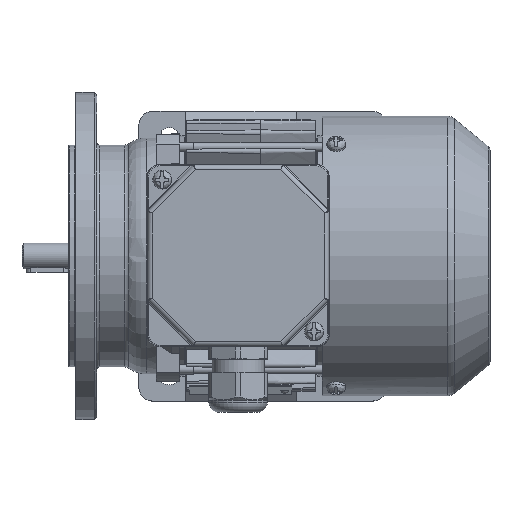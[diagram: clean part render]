
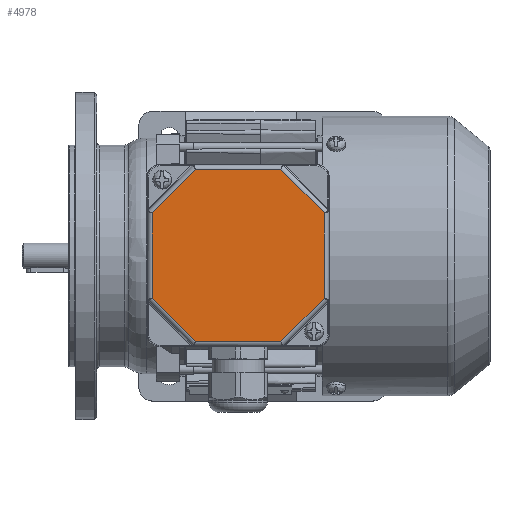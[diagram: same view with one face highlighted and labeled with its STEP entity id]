
A CAD part, top view. The second image highlights one B-rep face of the part: STEP entity #4978.
In plain terms, the highlighted planar face has unit normal (0, 0, 1).
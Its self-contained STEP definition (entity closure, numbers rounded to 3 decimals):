
#4978 = ADVANCED_FACE( '', ( #10157 ), #10158, .T. );
#10157 = FACE_OUTER_BOUND( '', #22165, .T. );
#10158 = PLANE( '', #22166 );
#22165 = EDGE_LOOP( '', ( #37793, #37794, #37795, #37796, #37797, #37798, #37799, #37800 ) );
#22166 = AXIS2_PLACEMENT_3D( '', #37801, #37802, #37803 );
#37793 = ORIENTED_EDGE( '', *, *, #46606, .T. );
#37794 = ORIENTED_EDGE( '', *, *, #47061, .T. );
#37795 = ORIENTED_EDGE( '', *, *, #44706, .T. );
#37796 = ORIENTED_EDGE( '', *, *, #42994, .T. );
#37797 = ORIENTED_EDGE( '', *, *, #45588, .T. );
#37798 = ORIENTED_EDGE( '', *, *, #45068, .T. );
#37799 = ORIENTED_EDGE( '', *, *, #45857, .T. );
#37800 = ORIENTED_EDGE( '', *, *, #46737, .T. );
#37801 = CARTESIAN_POINT( '', ( -39., 39., 12. ) );
#37802 = DIRECTION( '', ( 0., 0., 1. ) );
#37803 = DIRECTION( '', ( 1., 0., 0. ) );
#42994 = EDGE_CURVE( '', #51275, #51276, #51277, .T. );
#44706 = EDGE_CURVE( '', #54021, #51275, #54022, .F. );
#45068 = EDGE_CURVE( '', #54538, #49909, #54539, .T. );
#45588 = EDGE_CURVE( '', #51276, #54538, #55302, .F. );
#45857 = EDGE_CURVE( '', #49909, #55634, #55635, .F. );
#46606 = EDGE_CURVE( '', #55383, #56599, #56601, .F. );
#46737 = EDGE_CURVE( '', #55634, #55383, #56759, .T. );
#47061 = EDGE_CURVE( '', #56599, #54021, #57118, .T. );
#49909 = VERTEX_POINT( '', #60717 );
#51275 = VERTEX_POINT( '', #63500 );
#51276 = VERTEX_POINT( '', #63501 );
#51277 = LINE( '', #63502, #63503 );
#54021 = VERTEX_POINT( '', #69154 );
#54022 = LINE( '', #69155, #69156 );
#54538 = VERTEX_POINT( '', #70771 );
#54539 = LINE( '', #70772, #70773 );
#55302 = LINE( '', #72094, #72095 );
#55383 = VERTEX_POINT( '', #72298 );
#55634 = VERTEX_POINT( '', #72767 );
#55635 = LINE( '', #72768, #72769 );
#56599 = VERTEX_POINT( '', #74782 );
#56601 = LINE( '', #74784, #74785 );
#56759 = LINE( '', #75123, #75124 );
#57118 = LINE( '', #75676, #75677 );
#60717 = CARTESIAN_POINT( '', ( -18.255, -36.825, 12. ) );
#63500 = CARTESIAN_POINT( '', ( -18.255, 36.825, 12. ) );
#63501 = CARTESIAN_POINT( '', ( -36.825, 18.255, 12. ) );
#63502 = CARTESIAN_POINT( '', ( -37.401, 17.679, 12. ) );
#63503 = VECTOR( '', #78862, 1000. );
#69154 = CARTESIAN_POINT( '', ( 18.255, 36.825, 12. ) );
#69155 = CARTESIAN_POINT( '', ( -19.069, 36.825, 12. ) );
#69156 = VECTOR( '', #81106, 1000. );
#70771 = CARTESIAN_POINT( '', ( -36.825, -18.255, 12. ) );
#70772 = CARTESIAN_POINT( '', ( -17.679, -37.401, 12. ) );
#70773 = VECTOR( '', #81467, 1000. );
#72094 = CARTESIAN_POINT( '', ( -36.825, -19.069, 12. ) );
#72095 = VECTOR( '', #82236, 1000. );
#72298 = CARTESIAN_POINT( '', ( 36.825, -18.255, 12. ) );
#72767 = CARTESIAN_POINT( '', ( 18.255, -36.825, 12. ) );
#72768 = CARTESIAN_POINT( '', ( 19.069, -36.825, 12. ) );
#72769 = VECTOR( '', #82511, 1000. );
#74782 = CARTESIAN_POINT( '', ( 36.825, 18.255, 12. ) );
#74784 = CARTESIAN_POINT( '', ( 36.825, 19.069, 12. ) );
#74785 = VECTOR( '', #83181, 1000. );
#75123 = CARTESIAN_POINT( '', ( 37.401, -17.679, 12. ) );
#75124 = VECTOR( '', #83302, 1000. );
#75676 = CARTESIAN_POINT( '', ( 17.679, 37.401, 12. ) );
#75677 = VECTOR( '', #83544, 1000. );
#78862 = DIRECTION( '', ( -0.707, -0.707, 0. ) );
#81106 = DIRECTION( '', ( 1., 0., 0. ) );
#81467 = DIRECTION( '', ( 0.707, -0.707, 0. ) );
#82236 = DIRECTION( '', ( 0., 1., 0. ) );
#82511 = DIRECTION( '', ( -1., 0., 0. ) );
#83181 = DIRECTION( '', ( 0., -1., 0. ) );
#83302 = DIRECTION( '', ( 0.707, 0.707, 0. ) );
#83544 = DIRECTION( '', ( -0.707, 0.707, 0. ) );
